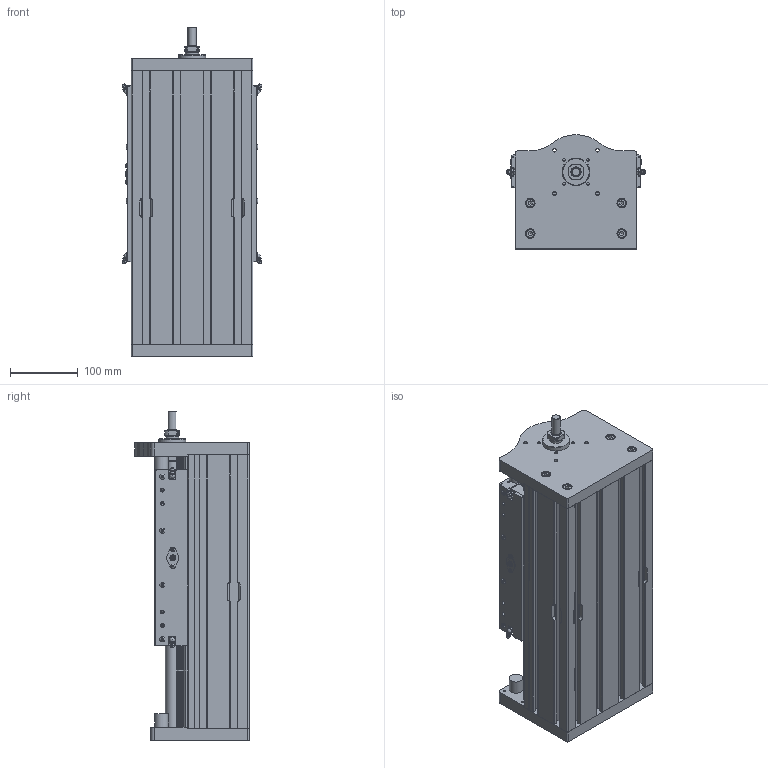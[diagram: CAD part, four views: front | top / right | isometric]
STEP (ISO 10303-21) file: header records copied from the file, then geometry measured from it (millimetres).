
FILE_DESCRIPTION(/* description */ ('Asse VU-K180LE-20H-20-N'),/* implementation_level */ '2;1');
FILE_NAME(/* name */ 'VU-K180LE-20H-20-N-CLIENTE.stp',/* time_stamp */ '2025-02-06T09:34:49+01:00',/* author */ ('davide.cavedon'),/* organization */ (''),/* preprocessor_version */ 'ST-DEVELOPER v20',/* originating_system */ 'Autodesk Inventor 2024',/* authorisation */ '');
FILE_SCHEMA (('CONFIG_CONTROL_DESIGN'));
Products named in the file (5): VU-K180LE-20H-20-N-CLIENTE; C_VU-K180LE-20H-20-N-001; C_VU-K180SE-20H-20-N-CLIENTE-002; C_VU-K180SE-20H-20-N-CLIENTE-003; C_VU-K180LE-20H-20-N-002
Assembly tree (4 placements, depth 2):
  VU-K180LE-20H-20-N-CLIENTE
    C_VU-K180LE-20H-20-N-001
    C_VU-K180SE-20H-20-N-CLIENTE-002
    C_VU-K180SE-20H-20-N-CLIENTE-003
    C_VU-K180LE-20H-20-N-002
Bounding box: 205.56 x 168.5 x 486.5 mm (x, y, z)
Volume: 8591224.2 mm3; surface area: 881736.4 mm2
Topology: 10 solids, 99 shells, 3498 faces, 8956 edges, 5800 vertices
Faces by surface type: plane 2043, cylinder 869, cone 371, torus 105, bspline 104, sphere 6
Full cylindrical faces by diameter (mm): 0.5 x4, 1 x8, 2 x5, 2.459 x2, 2.5 x2, 3 x10, 3.242 x30, 3.5 x2, 4 x8, 4.134 x28, 4.25 x2, 4.3 x2, 4.5 x11, 4.917 x4, 4.95 x2, 5 x34, 5.15 x2, 5.5 x24, 5.7 x2, 5.85 x2, 6 x20, 6.6 x4, 6.647 x24, 6.9 x4, 7 x6, 7.3 x8, 7.6 x10, 7.847 x4, 8 x10, 8.15 x2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
Entity records: 119052 total; most frequent: CARTESIAN_POINT 31513, ORIENTED_EDGE 17628, DIRECTION 17581, EDGE_CURVE 8872, AXIS2_PLACEMENT_3D 5992, VERTEX_POINT 5800, LINE 5597, VECTOR 5597
